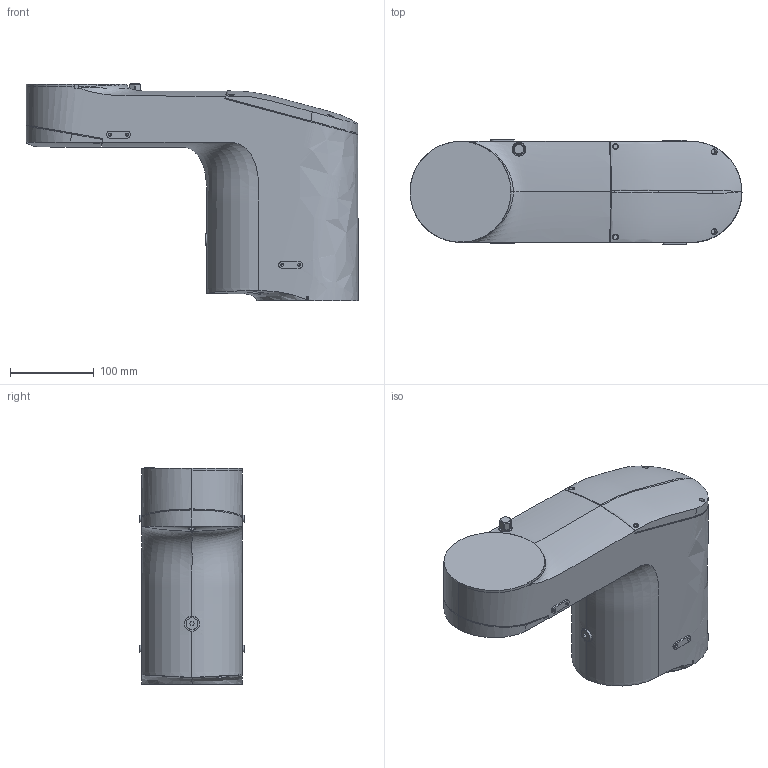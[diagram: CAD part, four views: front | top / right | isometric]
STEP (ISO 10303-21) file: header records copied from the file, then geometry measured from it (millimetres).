
FILE_DESCRIPTION (( 'STEP AP214' ), '1' );
FILE_NAME ('Link1_C550_IP54CR.step', '2019-10-23T07:38:17', ( '' ), ( '' ), 'SwSTEP 2.0', 'SolidWorks 2018', '' );
FILE_SCHEMA (( 'AUTOMOTIVE_DESIGN' ));
Length unit declared in the file: millimetre
Products named in the file (1): Link1_C550_IP54CR
Bounding box: 395.3 x 124 x 258.5 mm (x, y, z)
Volume: 6076643.1 mm3; surface area: 236130.9 mm2
Topology: 1 solids, 1 shells, 233 faces, 619 edges, 399 vertices
Faces by surface type: plane 67, cylinder 63, bspline 55, cone 46, torus 2
Entity records: 28316 total; most frequent: CARTESIAN_POINT 23053, ORIENTED_EDGE 1190, DIRECTION 917, EDGE_CURVE 595, VERTEX_POINT 399, AXIS2_PLACEMENT_3D 357, EDGE_LOOP 268, ADVANCED_FACE 233
